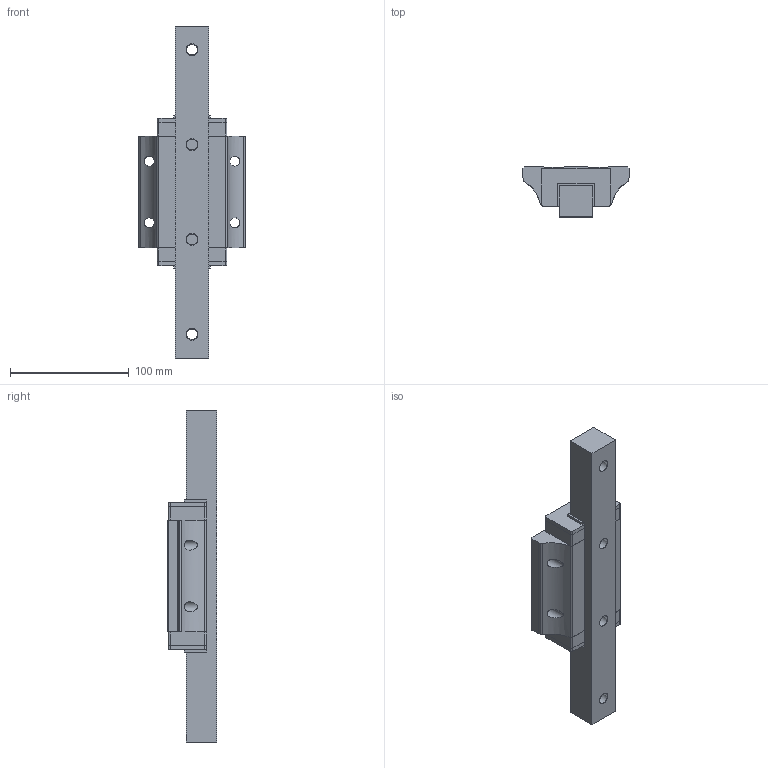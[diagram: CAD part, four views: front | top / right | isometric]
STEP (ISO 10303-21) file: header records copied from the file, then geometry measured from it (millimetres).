
FILE_DESCRIPTION((''),'2;1');
FILE_NAME('E:\PDF郪磁芞\DFH30AL.STP','2018-01-27T14:15:24',(''),(''),'STEP Write','Mastercam V9 ... CNC Software, Inc.','');
FILE_SCHEMA(('CONFIG_CONTROL_DESIGN'));
Length unit declared in the file: millimetre
Bounding box: 90 x 42 x 280 mm (x, y, z)
Volume: 421829 mm3; surface area: 83242.7 mm2
Topology: 8 solids, 8 shells, 136 faces, 632 edges, 796 vertices
Faces by surface type: plane 96, cylinder 32, cone 8
Full cylindrical faces by diameter (mm): 8.5 x4, 9 x4, 14 x4
Entity records: 7006 total; most frequent: CARTESIAN_POINT 2454, DIRECTION 978, ORIENTED_EDGE 664, VECTOR 454, LINE 454, EDGE_CURVE 332, TRIMMED_CURVE 272, AXIS2_PLACEMENT_3D 262
